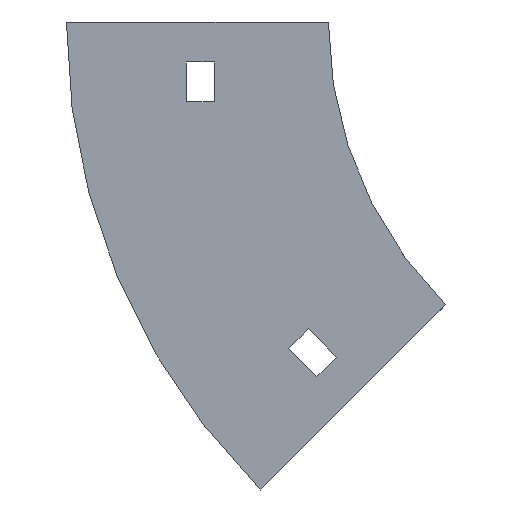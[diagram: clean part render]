
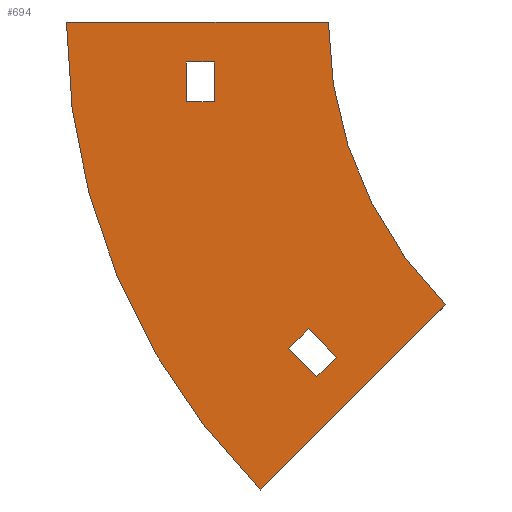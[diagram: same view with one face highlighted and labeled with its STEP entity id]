
A CAD part, left-side view. The second image highlights one B-rep face of the part: STEP entity #694.
In plain terms, the highlighted planar face has unit normal (-1, 0, 0).
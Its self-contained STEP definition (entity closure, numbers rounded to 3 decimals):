
#6 = DIRECTION ( 'NONE',  ( 0., 0., 1. ) ) ;
#8 = VECTOR ( 'NONE', #605, 1000. ) ;
#58 = CARTESIAN_POINT ( 'NONE',  ( -102., 65.5, 0. ) ) ;
#84 = EDGE_CURVE ( 'NONE', #574, #439, #962, .T. ) ;
#87 = EDGE_LOOP ( 'NONE', ( #173, #177, #191, #238 ) ) ;
#113 = VECTOR ( 'NONE', #623, 1000. ) ;
#126 = CARTESIAN_POINT ( 'NONE',  ( -102., 28.5, -10. ) ) ;
#156 = ORIENTED_EDGE ( 'NONE', *, *, #443, .T. ) ;
#158 = VECTOR ( 'NONE', #1087, 1000. ) ;
#164 = EDGE_CURVE ( 'NONE', #274, #677, #215, .T. ) ;
#169 = AXIS2_PLACEMENT_3D ( 'NONE', #201, #929, #6 ) ;
#173 = ORIENTED_EDGE ( 'NONE', *, *, #622, .F. ) ;
#175 = CARTESIAN_POINT ( 'NONE',  ( -102., -2.066, -83.792 ) ) ;
#176 = EDGE_CURVE ( 'NONE', #693, #290, #698, .T. ) ;
#177 = ORIENTED_EDGE ( 'NONE', *, *, #415, .F. ) ;
#181 = DIRECTION ( 'NONE',  ( 0., 0.707, 0.707 ) ) ;
#185 = LINE ( 'NONE', #576, #158 ) ;
#186 = VERTEX_POINT ( 'NONE', #965 ) ;
#191 = ORIENTED_EDGE ( 'NONE', *, *, #333, .F. ) ;
#201 = CARTESIAN_POINT ( 'NONE',  ( -102., -100., 0. ) ) ;
#204 = VECTOR ( 'NONE', #584, 1000. ) ;
#210 = CARTESIAN_POINT ( 'NONE',  ( -102., 35.5, -10. ) ) ;
#215 = LINE ( 'NONE', #782, #204 ) ;
#238 = ORIENTED_EDGE ( 'NONE', *, *, #164, .F. ) ;
#239 = DIRECTION ( 'NONE',  ( 0., -0.707, 0.707 ) ) ;
#267 = CARTESIAN_POINT ( 'NONE',  ( -102., -2.066, -83.792 ) ) ;
#272 = CARTESIAN_POINT ( 'NONE',  ( -102., 17.026, -117.026 ) ) ;
#274 = VERTEX_POINT ( 'NONE', #1151 ) ;
#281 = VECTOR ( 'NONE', #421, 1000. ) ;
#290 = VERTEX_POINT ( 'NONE', #267 ) ;
#291 = PLANE ( 'NONE',  #942 ) ;
#299 = CARTESIAN_POINT ( 'NONE',  ( -102., 28.5, -10. ) ) ;
#314 = EDGE_CURVE ( 'NONE', #789, #968, #535, .T. ) ;
#316 = VECTOR ( 'NONE', #839, 1000. ) ;
#333 = EDGE_CURVE ( 'NONE', #677, #879, #684, .T. ) ;
#371 = LINE ( 'NONE', #175, #441 ) ;
#381 = ORIENTED_EDGE ( 'NONE', *, *, #84, .T. ) ;
#404 = ORIENTED_EDGE ( 'NONE', *, *, #314, .F. ) ;
#413 = CARTESIAN_POINT ( 'NONE',  ( -102., 35.5, -10. ) ) ;
#415 = EDGE_CURVE ( 'NONE', #879, #861, #1123, .T. ) ;
#420 = CARTESIAN_POINT ( 'NONE',  ( -102., 0., 0. ) ) ;
#421 = DIRECTION ( 'NONE',  ( 0., 0., 1. ) ) ;
#435 = DIRECTION ( 'NONE',  ( 0., 0.707, -0.707 ) ) ;
#439 = VERTEX_POINT ( 'NONE', #210 ) ;
#441 = VECTOR ( 'NONE', #181, 1000. ) ;
#443 = EDGE_CURVE ( 'NONE', #1119, #186, #681, .T. ) ;
#456 = DIRECTION ( 'NONE',  ( 0., 0., 1. ) ) ;
#475 = EDGE_CURVE ( 'NONE', #186, #574, #493, .T. ) ;
#493 = LINE ( 'NONE', #977, #113 ) ;
#496 = DIRECTION ( 'NONE',  ( 0., 0., -1. ) ) ;
#497 = ORIENTED_EDGE ( 'NONE', *, *, #1066, .F. ) ;
#498 = LINE ( 'NONE', #413, #8 ) ;
#499 = CARTESIAN_POINT ( 'NONE',  ( -102., 35.5, -10. ) ) ;
#513 = ORIENTED_EDGE ( 'NONE', *, *, #528, .F. ) ;
#528 = EDGE_CURVE ( 'NONE', #290, #789, #371, .T. ) ;
#535 = LINE ( 'NONE', #881, #709 ) ;
#540 = FACE_OUTER_BOUND ( 'NONE', #87, .T. ) ;
#547 = CARTESIAN_POINT ( 'NONE',  ( -102., -100., 0. ) ) ;
#574 = VERTEX_POINT ( 'NONE', #1013 ) ;
#576 = CARTESIAN_POINT ( 'NONE',  ( -102., 2.884, -88.742 ) ) ;
#584 = DIRECTION ( 'NONE',  ( 0., 0.707, -0.707 ) ) ;
#592 = CARTESIAN_POINT ( 'NONE',  ( -102., 2.884, -88.742 ) ) ;
#605 = DIRECTION ( 'NONE',  ( 0., -1., 0. ) ) ;
#608 = VECTOR ( 'NONE', #239, 1000. ) ;
#622 = EDGE_CURVE ( 'NONE', #861, #274, #906, .T. ) ;
#623 = DIRECTION ( 'NONE',  ( 0., 1., 0. ) ) ;
#634 = CARTESIAN_POINT ( 'NONE',  ( -102., 2.884, -88.742 ) ) ;
#677 = VERTEX_POINT ( 'NONE', #272 ) ;
#681 = LINE ( 'NONE', #126, #1128 ) ;
#684 = CIRCLE ( 'NONE', #169, 165.5 ) ;
#693 = VERTEX_POINT ( 'NONE', #634 ) ;
#694 = ADVANCED_FACE ( 'NONE', ( #995, #540, #837 ), #291, .T. ) ;
#698 = LINE ( 'NONE', #592, #608 ) ;
#709 = VECTOR ( 'NONE', #435, 1000. ) ;
#741 = DIRECTION ( 'NONE',  ( -1., 0., 0. ) ) ;
#782 = CARTESIAN_POINT ( 'NONE',  ( -102., -29.289, -70.711 ) ) ;
#789 = VERTEX_POINT ( 'NONE', #1012 ) ;
#837 = FACE_BOUND ( 'NONE', #1020, .T. ) ;
#839 = DIRECTION ( 'NONE',  ( 0., -1., 0. ) ) ;
#861 = VERTEX_POINT ( 'NONE', #420 ) ;
#879 = VERTEX_POINT ( 'NONE', #58 ) ;
#881 = CARTESIAN_POINT ( 'NONE',  ( -102., 9.955, -81.671 ) ) ;
#882 = EDGE_CURVE ( 'NONE', #439, #1119, #498, .T. ) ;
#906 = CIRCLE ( 'NONE', #1146, 100. ) ;
#929 = DIRECTION ( 'NONE',  ( 1., 0., 0. ) ) ;
#938 = ORIENTED_EDGE ( 'NONE', *, *, #882, .T. ) ;
#942 = AXIS2_PLACEMENT_3D ( 'NONE', #1018, #741, #1107 ) ;
#962 = LINE ( 'NONE', #499, #281 ) ;
#965 = CARTESIAN_POINT ( 'NONE',  ( -102., 28.5, -20. ) ) ;
#968 = VERTEX_POINT ( 'NONE', #1033 ) ;
#977 = CARTESIAN_POINT ( 'NONE',  ( -102., 35.5, -20. ) ) ;
#991 = EDGE_LOOP ( 'NONE', ( #938, #156, #1078, #381 ) ) ;
#995 = FACE_BOUND ( 'NONE', #991, .T. ) ;
#1012 = CARTESIAN_POINT ( 'NONE',  ( -102., 5.005, -76.721 ) ) ;
#1013 = CARTESIAN_POINT ( 'NONE',  ( -102., 35.5, -20. ) ) ;
#1018 = CARTESIAN_POINT ( 'NONE',  ( -102., -100., 0. ) ) ;
#1020 = EDGE_LOOP ( 'NONE', ( #513, #1061, #497, #404 ) ) ;
#1033 = CARTESIAN_POINT ( 'NONE',  ( -102., 9.955, -81.671 ) ) ;
#1061 = ORIENTED_EDGE ( 'NONE', *, *, #176, .F. ) ;
#1066 = EDGE_CURVE ( 'NONE', #968, #693, #185, .T. ) ;
#1078 = ORIENTED_EDGE ( 'NONE', *, *, #475, .T. ) ;
#1081 = DIRECTION ( 'NONE',  ( -1., 0., 0. ) ) ;
#1087 = DIRECTION ( 'NONE',  ( 0., -0.707, -0.707 ) ) ;
#1102 = CARTESIAN_POINT ( 'NONE',  ( -102., 65.5, 0. ) ) ;
#1107 = DIRECTION ( 'NONE',  ( 0., 0., 1. ) ) ;
#1119 = VERTEX_POINT ( 'NONE', #299 ) ;
#1123 = LINE ( 'NONE', #1102, #316 ) ;
#1128 = VECTOR ( 'NONE', #496, 1000. ) ;
#1146 = AXIS2_PLACEMENT_3D ( 'NONE', #547, #1081, #456 ) ;
#1151 = CARTESIAN_POINT ( 'NONE',  ( -102., -29.289, -70.711 ) ) ;
